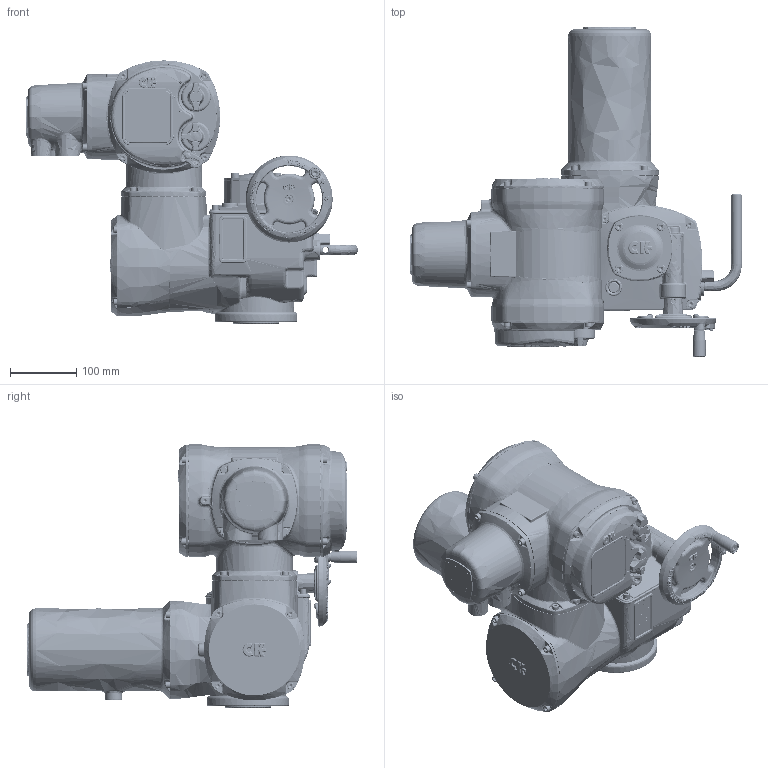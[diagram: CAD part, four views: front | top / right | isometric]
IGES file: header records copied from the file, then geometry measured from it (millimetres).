
Start section: C
Global section: file name: CK120 F10 NON THRUST BASE - ATRONIK & LARGE MOTOR.igs; native system: By Siemens PLM Incorporated; preprocessor: XPlus GENERIC/IGES 21.0.46; author: Author; organization: Title; date: 20181016.122311; units: millimetre
Bounding box: 502.85 x 499.65 x 398.78 mm (x, y, z)
Surface area: 866432 mm2 (no closed solid volume)
Topology: 0 solids, 0 shells, 10594 faces, 57953 edges, 57526 vertices
Faces by surface type: bspline 10594
